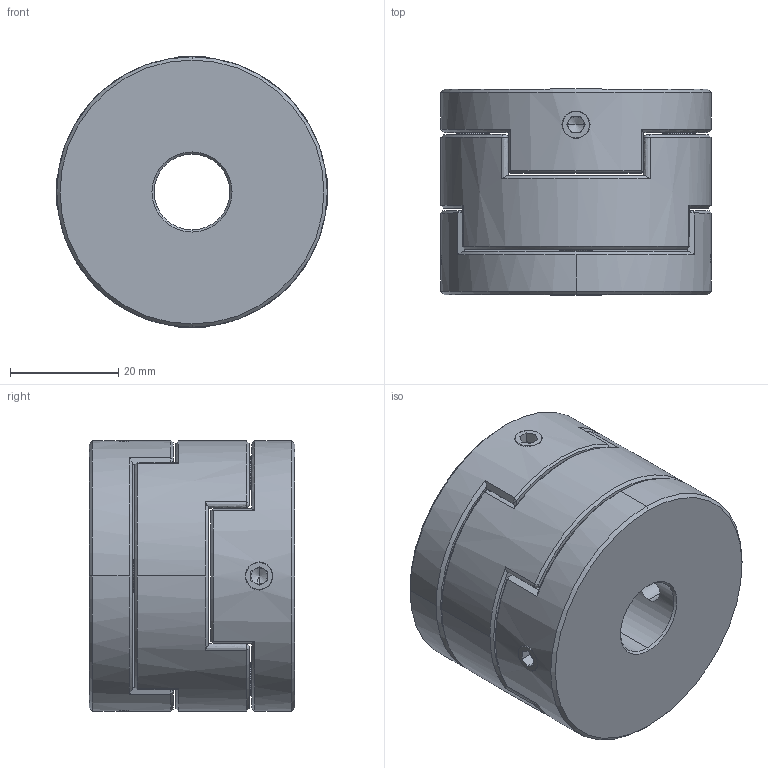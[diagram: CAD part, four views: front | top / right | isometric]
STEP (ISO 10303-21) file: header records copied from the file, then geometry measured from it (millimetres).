
FILE_DESCRIPTION (( 'STEP AP203' ), '1' );
FILE_NAME ('LZ-D-D50L38-14-16.STEP', '2021-10-30T05:45:34', ( '' ), ( '' ), 'SwSTEP 2.0', 'SolidWorks 2018', '' );
FILE_SCHEMA (( 'CONFIG_CONTROL_DESIGN' ));
Length unit declared in the file: millimetre
Products named in the file (1): LZ-D-D50L38-14-16
Bounding box: 50 x 38 x 50 mm (x, y, z)
Volume: 63454.2 mm3; surface area: 18542.9 mm2
Topology: 1 solids, 1 shells, 222 faces, 546 edges, 326 vertices
Faces by surface type: plane 88, bspline 54, cone 54, cylinder 26
Entity records: 7542 total; most frequent: CARTESIAN_POINT 2780, ORIENTED_EDGE 1076, DIRECTION 798, EDGE_CURVE 538, VERTEX_POINT 326, AXIS2_PLACEMENT_3D 289, EDGE_LOOP 248, FACE_OUTER_BOUND 222
